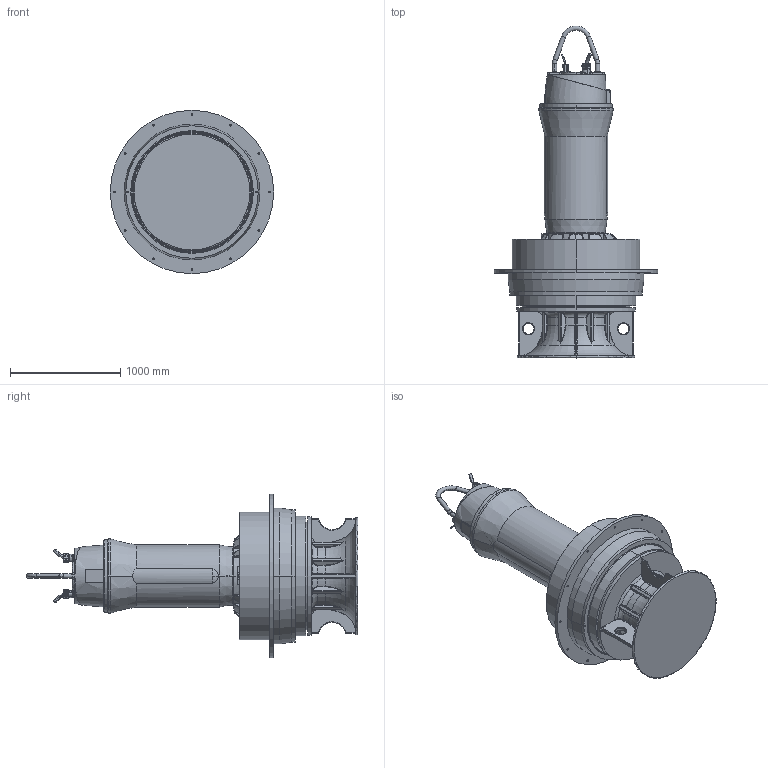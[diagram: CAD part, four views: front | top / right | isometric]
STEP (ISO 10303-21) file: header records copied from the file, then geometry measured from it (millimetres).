
FILE_DESCRIPTION (( 'STEP AP214' ), '1' );
FILE_NAME ('PE7_AFLX1207_FU_A.STEP', '2017-05-12T06:09:28', ( '' ), ( '' ), 'SwSTEP 2.0', 'SolidWorks 2017', '' );
FILE_SCHEMA (( 'AUTOMOTIVE_DESIGN' ));
Length unit declared in the file: millimetre
Products named in the file (1): PE7_AFLX1207_FU_A
Bounding box: 1480 x 3008.1 x 1480 mm (x, y, z)
Volume: 1230564566 mm3; surface area: 13942603 mm2
Topology: 4 solids, 23 shells, 3040 faces, 7368 edges, 4211 vertices
Faces by surface type: bspline 945, plane 683, cylinder 636, torus 359, cone 290, sphere 127
Entity records: 702193 total; most frequent: CARTESIAN_POINT 605835, ORIENTED_EDGE 14264, DIRECTION 11656, EDGE_CURVE 7132, AXIS2_PLACEMENT_3D 4809, VERTEX_POINT 4210, EDGE_LOOP 3200, UNCERTAINTY_MEASURE_WITH_UNIT 3046
